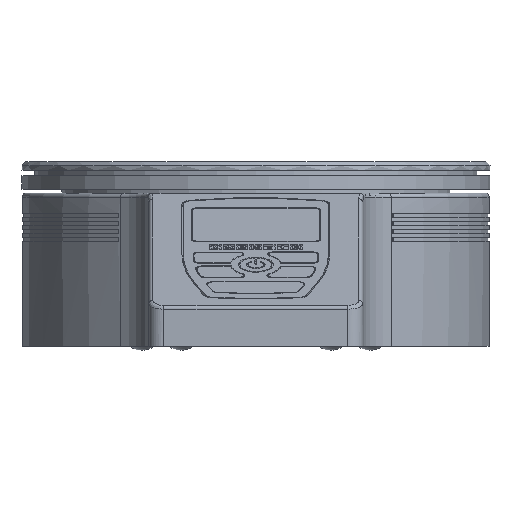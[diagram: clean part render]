
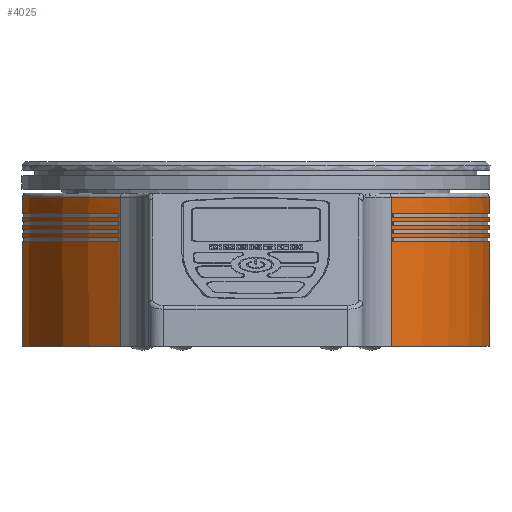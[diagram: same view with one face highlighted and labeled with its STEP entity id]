
A CAD part, front view. The second image highlights one B-rep face of the part: STEP entity #4025.
In plain terms, the highlighted cylindrical face has radius 88.9 mm (diameter 177.8 mm), a partial arc.
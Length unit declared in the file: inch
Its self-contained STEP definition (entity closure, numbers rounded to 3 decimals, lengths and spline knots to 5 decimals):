
#2782=CARTESIAN_POINT('',(74.90125,57.61055,-20.86535));
#2783=VERTEX_POINT('',#2782);
#2784=CARTESIAN_POINT('',(74.90125,57.61055,-18.63535));
#2785=VERTEX_POINT('',#2784);
#2786=CARTESIAN_POINT('',(74.90125,57.61055,-20.86535));
#2787=DIRECTION('',(0.0,0.0,1.0));
#2788=VECTOR('',#2787,2.23);
#2789=LINE('',#2786,#2788);
#2790=EDGE_CURVE('',#2783,#2785,#2789,.T.);
#3348=CARTESIAN_POINT('',(74.45521,63.59223,-19.68535));
#3349=VERTEX_POINT('',#3348);
#3350=CARTESIAN_POINT('',(71.30283,63.59223,-19.68535));
#3351=VERTEX_POINT('',#3350);
#3352=CARTESIAN_POINT('',(72.87902,60.46723,-21.48957));
#3353=DIRECTION('',(0.,-0.5,0.866));
#3354=DIRECTION('',(0.,0.866,0.5));
#3355=AXIS2_PLACEMENT_3D('',#3352,#3353,#3354);
#3356=ELLIPSE('',#3355,4.04145,3.5);
#3357=EDGE_CURVE('',#3349,#3351,#3356,.T.);
#3373=CARTESIAN_POINT('',(71.30283,63.59223,-20.48535));
#3374=VERTEX_POINT('',#3373);
#3375=CARTESIAN_POINT('',(74.45521,63.59223,-20.48535));
#3376=VERTEX_POINT('',#3375);
#3377=CARTESIAN_POINT('',(72.87902,60.46723,-18.68113));
#3378=DIRECTION('',(0.,-0.5,-0.866));
#3379=DIRECTION('',(0.,0.866,-0.5));
#3380=AXIS2_PLACEMENT_3D('',#3377,#3378,#3379);
#3381=ELLIPSE('',#3380,4.04145,3.5);
#3382=EDGE_CURVE('',#3374,#3376,#3381,.T.);
#3409=CARTESIAN_POINT('',(74.93627,57.63567,-19.29535));
#3410=VERTEX_POINT('',#3409);
#3417=CARTESIAN_POINT('',(70.82178,57.63567,-19.29535));
#3418=VERTEX_POINT('',#3417);
#3419=CARTESIAN_POINT('',(72.87902,60.46723,-19.29535));
#3420=DIRECTION('',(0.,0.,-1.0));
#3421=DIRECTION('',(0.,1.0,0.));
#3422=AXIS2_PLACEMENT_3D('',#3419,#3420,#3421);
#3423=CIRCLE('',#3422,3.5);
#3424=EDGE_CURVE('',#3418,#3410,#3423,.T.);
#3442=CARTESIAN_POINT('',(70.82178,57.63567,-19.23535));
#3443=VERTEX_POINT('',#3442);
#3450=CARTESIAN_POINT('',(74.93627,57.63567,-19.23535));
#3451=VERTEX_POINT('',#3450);
#3452=CARTESIAN_POINT('',(72.87902,60.46723,-19.23535));
#3453=DIRECTION('',(0.,0.,1.0));
#3454=DIRECTION('',(0.,1.0,0.));
#3455=AXIS2_PLACEMENT_3D('',#3452,#3453,#3454);
#3456=CIRCLE('',#3455,3.5);
#3457=EDGE_CURVE('',#3451,#3443,#3456,.T.);
#3505=CARTESIAN_POINT('',(74.93627,57.63567,-19.29535));
#3506=DIRECTION('',(0.0,0.0,1.0));
#3507=VECTOR('',#3506,0.06);
#3508=LINE('',#3505,#3507);
#3509=EDGE_CURVE('',#3410,#3451,#3508,.T.);
#3524=CARTESIAN_POINT('',(70.82178,57.63567,-19.23535));
#3525=DIRECTION('',(0.0,0.0,-1.0));
#3526=VECTOR('',#3525,0.06);
#3527=LINE('',#3524,#3526);
#3528=EDGE_CURVE('',#3443,#3418,#3527,.T.);
#3549=CARTESIAN_POINT('',(74.93627,57.63567,-19.05535));
#3550=VERTEX_POINT('',#3549);
#3557=CARTESIAN_POINT('',(70.82178,57.63567,-19.05535));
#3558=VERTEX_POINT('',#3557);
#3559=CARTESIAN_POINT('',(72.87902,60.46723,-19.05535));
#3560=DIRECTION('',(0.,0.,-1.0));
#3561=DIRECTION('',(0.,1.0,0.));
#3562=AXIS2_PLACEMENT_3D('',#3559,#3560,#3561);
#3563=CIRCLE('',#3562,3.5);
#3564=EDGE_CURVE('',#3558,#3550,#3563,.T.);
#3582=CARTESIAN_POINT('',(70.82178,57.63567,-18.99535));
#3583=VERTEX_POINT('',#3582);
#3590=CARTESIAN_POINT('',(74.93627,57.63567,-18.99535));
#3591=VERTEX_POINT('',#3590);
#3592=CARTESIAN_POINT('',(72.87902,60.46723,-18.99535));
#3593=DIRECTION('',(0.,0.,1.0));
#3594=DIRECTION('',(0.,1.0,0.));
#3595=AXIS2_PLACEMENT_3D('',#3592,#3593,#3594);
#3596=CIRCLE('',#3595,3.5);
#3597=EDGE_CURVE('',#3591,#3583,#3596,.T.);
#3645=CARTESIAN_POINT('',(74.93627,57.63567,-19.05535));
#3646=DIRECTION('',(0.0,0.0,1.0));
#3647=VECTOR('',#3646,0.06);
#3648=LINE('',#3645,#3647);
#3649=EDGE_CURVE('',#3550,#3591,#3648,.T.);
#3664=CARTESIAN_POINT('',(70.82178,57.63567,-18.99535));
#3665=DIRECTION('',(0.0,0.0,-1.0));
#3666=VECTOR('',#3665,0.06);
#3667=LINE('',#3664,#3666);
#3668=EDGE_CURVE('',#3583,#3558,#3667,.T.);
#3689=CARTESIAN_POINT('',(74.93627,57.63567,-18.93535));
#3690=VERTEX_POINT('',#3689);
#3697=CARTESIAN_POINT('',(70.82178,57.63567,-18.93535));
#3698=VERTEX_POINT('',#3697);
#3699=CARTESIAN_POINT('',(72.87902,60.46723,-18.93535));
#3700=DIRECTION('',(0.,0.,-1.0));
#3701=DIRECTION('',(0.,1.0,0.));
#3702=AXIS2_PLACEMENT_3D('',#3699,#3700,#3701);
#3703=CIRCLE('',#3702,3.5);
#3704=EDGE_CURVE('',#3698,#3690,#3703,.T.);
#3722=CARTESIAN_POINT('',(70.82178,57.63567,-18.87535));
#3723=VERTEX_POINT('',#3722);
#3730=CARTESIAN_POINT('',(74.93627,57.63567,-18.87535));
#3731=VERTEX_POINT('',#3730);
#3732=CARTESIAN_POINT('',(72.87902,60.46723,-18.87535));
#3733=DIRECTION('',(0.,0.,1.0));
#3734=DIRECTION('',(0.,1.0,0.));
#3735=AXIS2_PLACEMENT_3D('',#3732,#3733,#3734);
#3736=CIRCLE('',#3735,3.5);
#3737=EDGE_CURVE('',#3731,#3723,#3736,.T.);
#3785=CARTESIAN_POINT('',(74.93627,57.63567,-18.93535));
#3786=DIRECTION('',(0.0,0.0,1.0));
#3787=VECTOR('',#3786,0.06);
#3788=LINE('',#3785,#3787);
#3789=EDGE_CURVE('',#3690,#3731,#3788,.T.);
#3804=CARTESIAN_POINT('',(70.82178,57.63567,-18.87535));
#3805=DIRECTION('',(0.0,0.0,-1.0));
#3806=VECTOR('',#3805,0.06);
#3807=LINE('',#3804,#3806);
#3808=EDGE_CURVE('',#3723,#3698,#3807,.T.);
#3829=CARTESIAN_POINT('',(74.93627,57.63567,-19.17535));
#3830=VERTEX_POINT('',#3829);
#3837=CARTESIAN_POINT('',(70.82178,57.63567,-19.17535));
#3838=VERTEX_POINT('',#3837);
#3839=CARTESIAN_POINT('',(72.87902,60.46723,-19.17535));
#3840=DIRECTION('',(0.,0.,-1.0));
#3841=DIRECTION('',(0.,1.0,0.));
#3842=AXIS2_PLACEMENT_3D('',#3839,#3840,#3841);
#3843=CIRCLE('',#3842,3.5);
#3844=EDGE_CURVE('',#3838,#3830,#3843,.T.);
#3862=CARTESIAN_POINT('',(70.82178,57.63567,-19.11535));
#3863=VERTEX_POINT('',#3862);
#3870=CARTESIAN_POINT('',(74.93627,57.63567,-19.11535));
#3871=VERTEX_POINT('',#3870);
#3872=CARTESIAN_POINT('',(72.87902,60.46723,-19.11535));
#3873=DIRECTION('',(0.,0.,1.0));
#3874=DIRECTION('',(0.,1.0,0.));
#3875=AXIS2_PLACEMENT_3D('',#3872,#3873,#3874);
#3876=CIRCLE('',#3875,3.5);
#3877=EDGE_CURVE('',#3871,#3863,#3876,.T.);
#3925=CARTESIAN_POINT('',(74.93627,57.63567,-19.17535));
#3926=DIRECTION('',(0.0,0.0,1.0));
#3927=VECTOR('',#3926,0.06);
#3928=LINE('',#3925,#3927);
#3929=EDGE_CURVE('',#3830,#3871,#3928,.T.);
#3944=CARTESIAN_POINT('',(70.82178,57.63567,-19.11535));
#3945=DIRECTION('',(0.0,0.0,-1.0));
#3946=VECTOR('',#3945,0.06);
#3947=LINE('',#3944,#3946);
#3948=EDGE_CURVE('',#3863,#3838,#3947,.T.);
#3953=CARTESIAN_POINT('',(72.87902,60.46723,-20.86535));
#3954=DIRECTION('',(0.,0.,1.0));
#3955=DIRECTION('',(0.,1.0,0.));
#3956=AXIS2_PLACEMENT_3D('',#3953,#3954,#3955);
#3957=CYLINDRICAL_SURFACE('',#3956,3.5);
#3958=CARTESIAN_POINT('',(70.8568,57.61055,-20.86535));
#3959=VERTEX_POINT('',#3958);
#3960=CARTESIAN_POINT('',(72.87902,60.46723,-20.86535));
#3961=DIRECTION('',(0.,0.,-1.0));
#3962=DIRECTION('',(0.,1.0,0.));
#3963=AXIS2_PLACEMENT_3D('',#3960,#3961,#3962);
#3964=CIRCLE('',#3963,3.5);
#3965=EDGE_CURVE('',#3959,#2783,#3964,.T.);
#3966=ORIENTED_EDGE('',*,*,#3965,.F.);
#3967=CARTESIAN_POINT('',(70.8568,57.61055,-18.63535));
#3968=VERTEX_POINT('',#3967);
#3969=CARTESIAN_POINT('',(70.8568,57.61055,-20.86535));
#3970=DIRECTION('',(0.0,0.0,1.0));
#3971=VECTOR('',#3970,2.23);
#3972=LINE('',#3969,#3971);
#3973=EDGE_CURVE('',#3959,#3968,#3972,.T.);
#3974=ORIENTED_EDGE('',*,*,#3973,.T.);
#3975=CARTESIAN_POINT('',(72.87902,60.46723,-18.63535));
#3976=DIRECTION('',(0.,0.,1.0));
#3977=DIRECTION('',(0.,1.0,0.));
#3978=AXIS2_PLACEMENT_3D('',#3975,#3976,#3977);
#3979=CIRCLE('',#3978,3.5);
#3980=EDGE_CURVE('',#2785,#3968,#3979,.T.);
#3981=ORIENTED_EDGE('',*,*,#3980,.F.);
#3982=ORIENTED_EDGE('',*,*,#2790,.F.);
#3983=EDGE_LOOP('',(#3966,#3974,#3981,#3982));
#3984=FACE_OUTER_BOUND('',#3983,.T.);
#3985=ORIENTED_EDGE('',*,*,#3929,.T.);
#3986=ORIENTED_EDGE('',*,*,#3877,.T.);
#3987=ORIENTED_EDGE('',*,*,#3948,.T.);
#3988=ORIENTED_EDGE('',*,*,#3844,.T.);
#3989=EDGE_LOOP('',(#3985,#3986,#3987,#3988));
#3990=FACE_BOUND('',#3989,.T.);
#3991=ORIENTED_EDGE('',*,*,#3789,.T.);
#3992=ORIENTED_EDGE('',*,*,#3737,.T.);
#3993=ORIENTED_EDGE('',*,*,#3808,.T.);
#3994=ORIENTED_EDGE('',*,*,#3704,.T.);
#3995=EDGE_LOOP('',(#3991,#3992,#3993,#3994));
#3996=FACE_BOUND('',#3995,.T.);
#3997=ORIENTED_EDGE('',*,*,#3649,.T.);
#3998=ORIENTED_EDGE('',*,*,#3597,.T.);
#3999=ORIENTED_EDGE('',*,*,#3668,.T.);
#4000=ORIENTED_EDGE('',*,*,#3564,.T.);
#4001=EDGE_LOOP('',(#3997,#3998,#3999,#4000));
#4002=FACE_BOUND('',#4001,.T.);
#4003=ORIENTED_EDGE('',*,*,#3509,.T.);
#4004=ORIENTED_EDGE('',*,*,#3457,.T.);
#4005=ORIENTED_EDGE('',*,*,#3528,.T.);
#4006=ORIENTED_EDGE('',*,*,#3424,.T.);
#4007=EDGE_LOOP('',(#4003,#4004,#4005,#4006));
#4008=FACE_BOUND('',#4007,.T.);
#4009=ORIENTED_EDGE('',*,*,#3382,.T.);
#4010=CARTESIAN_POINT('',(74.45521,63.59223,-20.48535));
#4011=DIRECTION('',(0.0,0.0,1.0));
#4012=VECTOR('',#4011,0.8);
#4013=LINE('',#4010,#4012);
#4014=EDGE_CURVE('',#3376,#3349,#4013,.T.);
#4015=ORIENTED_EDGE('',*,*,#4014,.T.);
#4016=ORIENTED_EDGE('',*,*,#3357,.T.);
#4017=CARTESIAN_POINT('',(71.30283,63.59223,-19.68535));
#4018=DIRECTION('',(0.0,0.0,-1.0));
#4019=VECTOR('',#4018,0.8);
#4020=LINE('',#4017,#4019);
#4021=EDGE_CURVE('',#3351,#3374,#4020,.T.);
#4022=ORIENTED_EDGE('',*,*,#4021,.T.);
#4023=EDGE_LOOP('',(#4009,#4015,#4016,#4022));
#4024=FACE_BOUND('',#4023,.T.);
#4025=ADVANCED_FACE('',(#3984,#3990,#3996,#4002,#4008,#4024),#3957,.T.);
